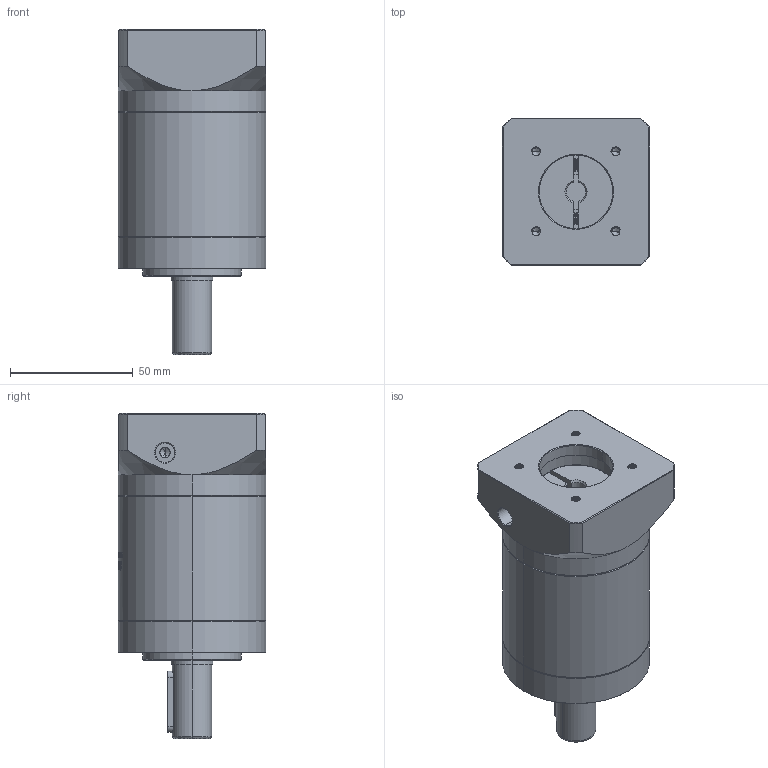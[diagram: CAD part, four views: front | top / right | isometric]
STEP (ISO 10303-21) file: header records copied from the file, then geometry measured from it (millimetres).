
FILE_DESCRIPTION (( 'STEP AP214' ), '1' );
FILE_NAME ('ZE60-D16-L2-8-30-46-M4.STEP', '2022-04-17T15:10:05', ( '' ), ( 'Microsoft' ), 'SwSTEP 2.0', 'SolidWorks 2016', '' );
FILE_SCHEMA (( 'AUTOMOTIVE_DESIGN' ));
Length unit declared in the file: millimetre
Products named in the file (1): ZE60-D16-L2-8-30-46-M4
Bounding box: 60 x 60 x 132.5 mm (x, y, z)
Volume: 271269.6 mm3; surface area: 46815 mm2
Topology: 6 solids, 6 shells, 1699 faces, 4623 edges, 2996 vertices
Faces by surface type: plane 732, cylinder 423, bspline 311, cone 215, torus 18
Entity records: 99765 total; most frequent: CARTESIAN_POINT 42577, ORIENTED_EDGE 9202, DIRECTION 6552, EDGE_CURVE 4601, VERTEX_POINT 2996, LINE 2294, VECTOR 2294, AXIS2_PLACEMENT_3D 2129
